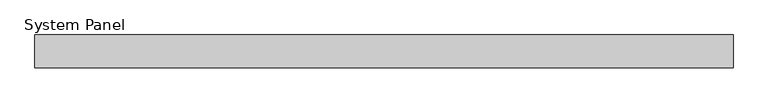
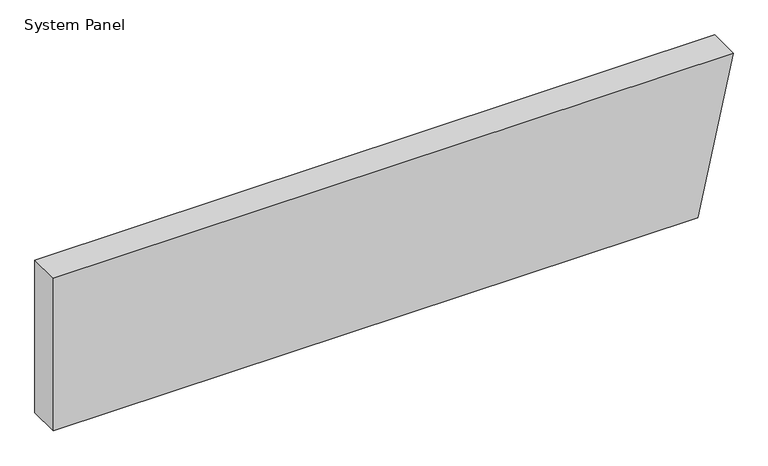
"""IFC4 building model written with IfcOpenShell, lengths in millimetres: plate geometry, System Panel : MetecnoPanel 75mm Horizontal - Plain Astro - PIR."""

import ifcopenshell
import ifcopenshell.guid

model = None  # the IFC model being written
_history = None  # IfcOwnerHistory: only IFC2X3 demands one
_inside = {}  # id of a spatial element -> (the spatial element, [elements in it])
_under = {}  # id of a project, library or spatial element -> (it, [spatial elements below it])
_declared = {}  # id of a project -> (the project, [libraries it declares])
_typed = {}  # id of a type object -> (the type object, [elements of that type])
_made_of = {}  # id of a material, layer set ... -> (it, [elements and type objects made of it])


def new_model(schema):
    """Start an empty IFC model of exactly this schema.

    Asked for "IFC4X3", IfcOpenShell would pick the latest addendum, in which some entities
    have other attributes; the version numbers below select the first issue.
    IFC2X3 requires an IfcOwnerHistory on every rooted entity: one is made here for all.
    """
    global model, _history
    if schema == "IFC4X3":
        model = ifcopenshell.file(schema_version=(4, 3, 0, 0))
    else:
        model = ifcopenshell.file(schema=schema)
    _inside.clear()
    _under.clear()
    _declared.clear()
    _typed.clear()
    _made_of.clear()
    _history = None
    if model.schema == "IFC2X3":
        org = make("IfcOrganization", Name="unknown")
        user = make(
            "IfcPersonAndOrganization",
            ThePerson=make("IfcPerson", FamilyName="unknown"),
            TheOrganization=org,
        )
        app = make(
            "IfcApplication",
            ApplicationDeveloper=org,
            Version="unknown",
            ApplicationFullName="unknown",
            ApplicationIdentifier="unknown",
        )
        _history = make(
            "IfcOwnerHistory",
            OwningUser=user,
            OwningApplication=app,
            ChangeAction="ADDED",
            CreationDate=0,
        )
    return model


def make(cls, **values):
    """One entity of the class cls with the attributes given. An attribute that is None is left unset."""
    return model.create_entity(
        cls, **{name: value for name, value in values.items() if value is not None}
    )


def rooted(cls, **values):
    """An entity with a GlobalId (a new one), such as an element, a storey or a relation."""
    return make(cls, GlobalId=ifcopenshell.guid.new(), OwnerHistory=_history, **values)


def si_unit(unit_type, name, prefix=None):
    """IfcSIUnit, for example si_unit("LENGTHUNIT", "METRE", prefix="MILLI")."""
    return make("IfcSIUnit", UnitType=unit_type, Prefix=prefix, Name=name)


def assignment(units):
    """IfcUnitAssignment: the units of a project."""
    return None if units is None else make("IfcUnitAssignment", Units=units)


def point(xyz):
    """IfcCartesianPoint."""
    return None if xyz is None else make("IfcCartesianPoint", Coordinates=xyz)


def direction(xyz):
    """IfcDirection."""
    return None if xyz is None else make("IfcDirection", DirectionRatios=xyz)


def frame(location, z_axis=None, x_axis=None):
    """IfcAxis2Placement3D, a coordinate frame: its origin and axes. An axis left out is left unset."""
    return make(
        "IfcAxis2Placement3D",
        Location=point(location),
        Axis=direction(z_axis),
        RefDirection=direction(x_axis),
    )


def origin():
    """The frame at (0, 0, 0) with its axes left unset."""
    return frame((0.0, 0.0, 0.0))


def place(relative_to, where):
    """IfcLocalPlacement: puts the frame where relative to a parent placement (None: the world)."""
    return make(
        "IfcLocalPlacement", PlacementRelTo=relative_to, RelativePlacement=where
    )


def context(
    kind, dimensions, precision=None, world=None, true_north=None, identifier=None
):
    """IfcGeometricRepresentationContext, for example the 3D "Model" context."""
    return make(
        "IfcGeometricRepresentationContext",
        ContextIdentifier=identifier,
        ContextType=kind,
        CoordinateSpaceDimension=dimensions,
        Precision=precision,
        WorldCoordinateSystem=world,
        TrueNorth=true_north,
    )


def project(units=None, contexts=None):
    """IfcProject with its units and contexts."""
    return rooted(
        "IfcProject",
        Name="project",
        RepresentationContexts=contexts,
        UnitsInContext=assignment(units),
    )


def spatial(cls, under=None, at=None, **own):
    """A site, building, storey or space (cls), placed at a placement, below another one or the project."""
    s = rooted(cls, ObjectPlacement=at, **own)
    if under is not None:
        _under.setdefault(under.id(), (under, []))[1].append(s)
    return s


def polyline(points):
    """IfcPolyline through the points."""
    return make("IfcPolyline", Points=[point(p) for p in points])


def outline(outer, holes=None, kind="AREA"):
    """IfcArbitraryClosedProfileDef: a profile drawn as a closed curve; with holes, ...WithVoids."""
    if holes is None:
        return make("IfcArbitraryClosedProfileDef", ProfileType=kind, OuterCurve=outer)
    return make(
        "IfcArbitraryProfileDefWithVoids",
        ProfileType=kind,
        OuterCurve=outer,
        InnerCurves=holes,
    )


def extrude(swept, where, along, depth):
    """IfcExtrudedAreaSolid: the profile swept, set in the frame where, extruded along a direction by depth."""
    return make(
        "IfcExtrudedAreaSolid",
        SweptArea=swept,
        Position=where,
        ExtrudedDirection=direction(along),
        Depth=depth,
    )


def shape(context_of_items, identifier, shape_type, items):
    """IfcShapeRepresentation: the items that make up one representation, for example the "Body"."""
    return make(
        "IfcShapeRepresentation",
        ContextOfItems=context_of_items,
        RepresentationIdentifier=identifier,
        RepresentationType=shape_type,
        Items=items,
    )


def source(mapping_origin, context_of_items, identifier, shape_type, items):
    """IfcRepresentationMap: a shape defined once, which mapped items show again and again."""
    return make(
        "IfcRepresentationMap",
        MappingOrigin=mapping_origin,
        MappedRepresentation=shape(context_of_items, identifier, shape_type, items),
    )


def transform(
    local_origin,
    x_axis=None,
    y_axis=None,
    z_axis=None,
    scale=None,
    scale2=None,
    scale3=None,
    uniform=True,
):
    """IfcCartesianTransformationOperator3D, or its non-uniform kind. x_axis, y_axis, z_axis: its Axis1, 2, 3."""
    if uniform:
        return make(
            "IfcCartesianTransformationOperator3D",
            Axis1=direction(x_axis),
            Axis2=direction(y_axis),
            LocalOrigin=point(local_origin),
            Scale=scale,
            Axis3=direction(z_axis),
        )
    return make(
        "IfcCartesianTransformationOperator3DnonUniform",
        Axis1=direction(x_axis),
        Axis2=direction(y_axis),
        LocalOrigin=point(local_origin),
        Scale=scale,
        Axis3=direction(z_axis),
        Scale2=scale2,
        Scale3=scale3,
    )


def mapped(mapping_source, mapping_target):
    """IfcMappedItem: shows the shape of a source again, moved by a transform."""
    return make(
        "IfcMappedItem", MappingSource=mapping_source, MappingTarget=mapping_target
    )


def made_of(thing, what):
    """Note that an element or type object is made of a material, layer set ...; save() writes the relation."""
    if what is not None:
        _made_of.setdefault(what.id(), (what, []))[1].append(thing)
    return thing


def element(
    cls,
    number,
    at=None,
    inside=None,
    cuts=None,
    type_object=None,
    material=None,
    context=None,
    identifier="Body",
    shape_type=None,
    held_by="IfcProductDefinitionShape",
    body=None,
    shapes=None,
    **own,
):
    """One element of the class cls, such as IfcWall. Its Tag is "e" and its number.

    at: its placement. inside: the storey or other place that contains it. cuts: it is an
    opening in that element (IfcRelVoidsElement). A single representation is given by context,
    identifier, shape_type and body (its items); several are given by shapes. held_by: the class
    of the entity that holds the representations. save() writes the other relations.
    """
    e = rooted(cls, Tag="e%d" % number, ObjectPlacement=at, **own)
    if body is not None:
        shapes = [shape(context, identifier, shape_type, body)]
    if shapes is not None:
        e.Representation = make(held_by, Representations=shapes)
    if inside is not None:
        _inside.setdefault(inside.id(), (inside, []))[1].append(e)
    if cuts is not None:
        rooted(
            "IfcRelVoidsElement", RelatingBuildingElement=cuts, RelatedOpeningElement=e
        )
    if type_object is not None:
        _typed.setdefault(type_object.id(), (type_object, []))[1].append(e)
    return made_of(e, material)


def aggregate(whole, parts):
    """IfcRelAggregates: a whole, such as a stair, and the parts it consists of."""
    return rooted("IfcRelAggregates", RelatingObject=whole, RelatedObjects=parts)


def save(model, path):
    """Write the relations noted so far, then the file.

    IfcRelAggregates (storeys below a building ...), IfcRelContainedInSpatialStructure (elements
    in a storey), IfcRelDefinesByType, IfcRelAssociatesMaterial and IfcRelDeclares: one each for
    every whole, place, type object, material and project.
    """
    for whole, parts in _under.values():
        aggregate(whole, parts)
    for where, things in _inside.values():
        rooted(
            "IfcRelContainedInSpatialStructure",
            RelatedElements=things,
            RelatingStructure=where,
        )
    for kind, things in _typed.values():
        rooted("IfcRelDefinesByType", RelatedObjects=things, RelatingType=kind)
    for what, things in _made_of.values():
        rooted("IfcRelAssociatesMaterial", RelatedObjects=things, RelatingMaterial=what)
    for by, libraries in _declared.values():
        rooted("IfcRelDeclares", RelatingContext=by, RelatedDefinitions=libraries)
    model.write(path)


def system_panel_7324f93b(model_context):
    return source(origin(), model_context, "Body", "SweptSolid", [
        extrude(outline(polyline([(0.0, -800.0), (0.0, 717.3970701), (379.9704237, 800.0), (379.9704237, -800.0), (0.0, -800.0)])), frame((0.0, -75.0, 0.0), z_axis=(0.0, 1.0, 0.0), x_axis=(0.0, 0.0, 1.0)), (0.0, 0.0, 1.0), 75.0),
    ])


if __name__ == "__main__":
    model = new_model("IFC4")
    model_context = context("Model", 3, world=origin())
    ifc_project = project(units=[si_unit("LENGTHUNIT", "METRE", prefix="MILLI")], contexts=[model_context])
    site = spatial("IfcSite", under=ifc_project)
    building = spatial("IfcBuilding", under=site)
    placement = place(None, origin())
    system_panel_shape = system_panel_7324f93b(model_context)
    element("IfcPlate", 1, ObjectType="System Panel : MetecnoPanel 75mm Horizontal - Plain Astro - PIR", at=placement, inside=building, context=model_context, shape_type="MappedRepresentation", body=[
        mapped(system_panel_shape, transform((0.0, 0.0, 0.0), x_axis=(1.0, 0.0, 0.0), y_axis=(0.0, 1.0, 0.0), z_axis=(0.0, 0.0, 1.0))),
    ])
    save(model, "model.ifc")
